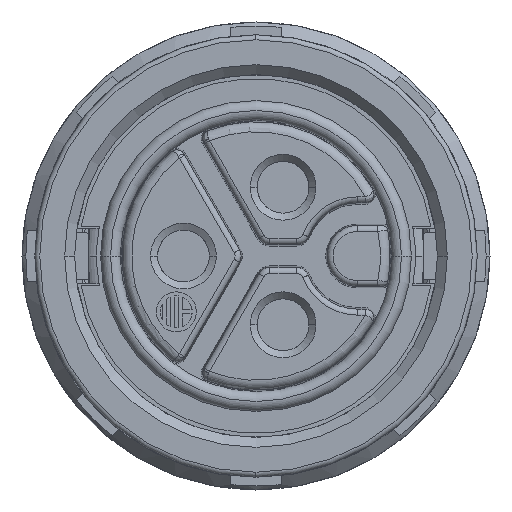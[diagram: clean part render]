
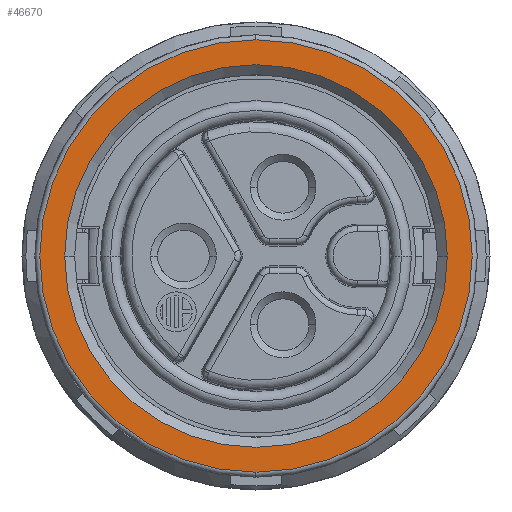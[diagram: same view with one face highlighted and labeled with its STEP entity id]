
A CAD part, left-side view. The second image highlights one B-rep face of the part: STEP entity #46670.
In plain terms, the highlighted planar face has unit normal (-1, 0, 0).
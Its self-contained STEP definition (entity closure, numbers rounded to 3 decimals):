
#16268=CARTESIAN_POINT('',(-20.45,0.,0.));
#16269=DIRECTION('',(-1.,0.,0.));
#16270=DIRECTION('',(0.,0.,1.));
#16271=AXIS2_PLACEMENT_3D('',#16268,#16269,#16270);
#16273=CARTESIAN_POINT('',(-20.45,0.,0.));
#16274=DIRECTION('',(-1.,0.,0.));
#16275=DIRECTION('',(0.,0.,-1.));
#16276=AXIS2_PLACEMENT_3D('',#16273,#16274,#16275);
#16278=CARTESIAN_POINT('',(-20.45,0.,0.));
#16279=DIRECTION('',(1.,0.,0.));
#16280=DIRECTION('',(0.,1.,0.));
#16281=AXIS2_PLACEMENT_3D('',#16278,#16279,#16280);
#16283=CARTESIAN_POINT('',(-20.45,0.,0.));
#16284=DIRECTION('',(1.,0.,0.));
#16285=DIRECTION('',(0.,-1.,0.));
#16286=AXIS2_PLACEMENT_3D('',#16283,#16284,#16285);
#23889=CARTESIAN_POINT('',(-20.45,0.,10.85));
#23890=CARTESIAN_POINT('',(-20.45,0.,-10.85));
#23891=VERTEX_POINT('',#23889);
#23892=VERTEX_POINT('',#23890);
#23917=CARTESIAN_POINT('',(-20.45,9.6,0.));
#23918=CARTESIAN_POINT('',(-20.45,-9.6,0.));
#23919=VERTEX_POINT('',#23917);
#23920=VERTEX_POINT('',#23918);
#46654=CARTESIAN_POINT('',(-20.45,0.,0.));
#46655=DIRECTION('',(-1.,0.,0.));
#46656=DIRECTION('',(0.,0.,-1.));
#46657=AXIS2_PLACEMENT_3D('',#46654,#46655,#46656);
#46658=PLANE('',#46657);
#46660=ORIENTED_EDGE('',*,*,#46659,.F.);
#46661=ORIENTED_EDGE('',*,*,#46637,.F.);
#46662=EDGE_LOOP('',(#46660,#46661));
#46663=FACE_OUTER_BOUND('',#46662,.F.);
#46665=ORIENTED_EDGE('',*,*,#46664,.F.);
#46667=ORIENTED_EDGE('',*,*,#46666,.F.);
#46668=EDGE_LOOP('',(#46665,#46667));
#46669=FACE_BOUND('',#46668,.F.);
#46670=ADVANCED_FACE('',(#46663,#46669),#46658,.T.);
#16272=CIRCLE('',#16271,10.85);
#16277=CIRCLE('',#16276,10.85);
#16282=CIRCLE('',#16281,9.6);
#16287=CIRCLE('',#16286,9.6);
#46637=EDGE_CURVE('',#23892,#23891,#16277,.T.);
#46659=EDGE_CURVE('',#23891,#23892,#16272,.T.);
#46664=EDGE_CURVE('',#23919,#23920,#16282,.T.);
#46666=EDGE_CURVE('',#23920,#23919,#16287,.T.);
